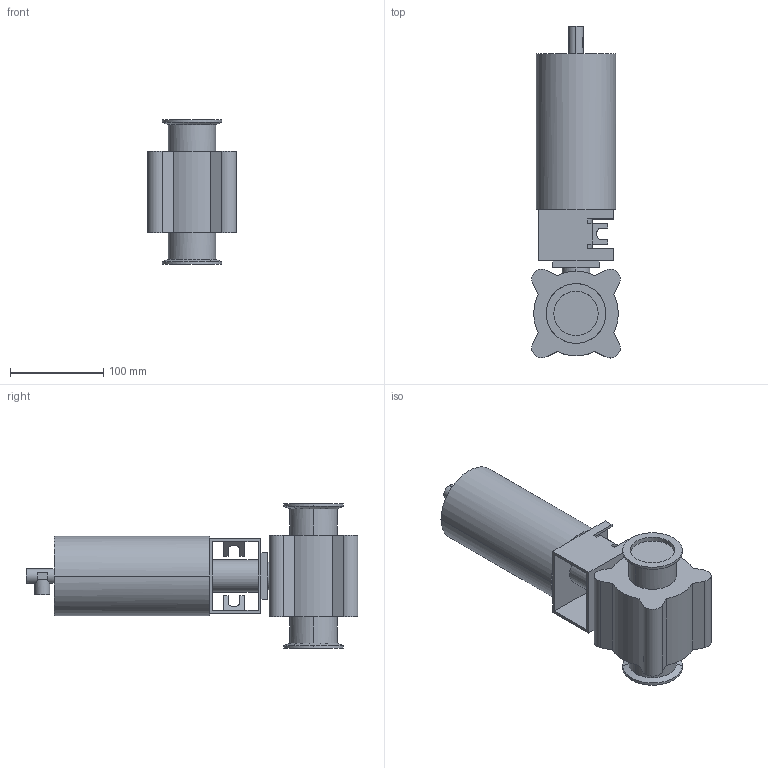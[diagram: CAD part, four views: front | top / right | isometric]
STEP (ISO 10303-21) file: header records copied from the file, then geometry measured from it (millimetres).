
FILE_DESCRIPTION(('Creo Elements/Direct Modeling STEP Export'),'2;1');
FILE_NAME('BLV1-2T-NC-12CL.stp','2019-05-10T 8:20:14',(''),(''),'Creo Elements/Direct Modeling STEP processor for AP214 (Solid Model)','Creo Elements/Direct Modeling 19.0F 14-Feb-2017 (C) Parametric Technology GmbH','');
FILE_SCHEMA(('AUTOMOTIVE_DESIGN { 1 0 10303 214 1 1 1 1 }'));
Length unit declared in the file: millimetre
Products named in the file (2): BLV1-2T-NC-12CL
Assembly tree (1 placements, depth 2):
  BLV1-2T-NC-12CL
    BLV1-2T-NC-12CL
Bounding box: 95.12 x 356.06 x 155 mm (x, y, z)
Volume: 1909407.2 mm3; surface area: 158773.9 mm2
Topology: 1 solids, 1 shells, 116 faces, 305 edges, 198 vertices
Faces by surface type: plane 80, cylinder 32, cone 4
Entity records: 3328 total; most frequent: CARTESIAN_POINT 619, ORIENTED_EDGE 610, DIRECTION 493, EDGE_CURVE 305, VERTEX_POINT 198, VECTOR 195, LINE 195, AXIS2_PLACEMENT_3D 149
